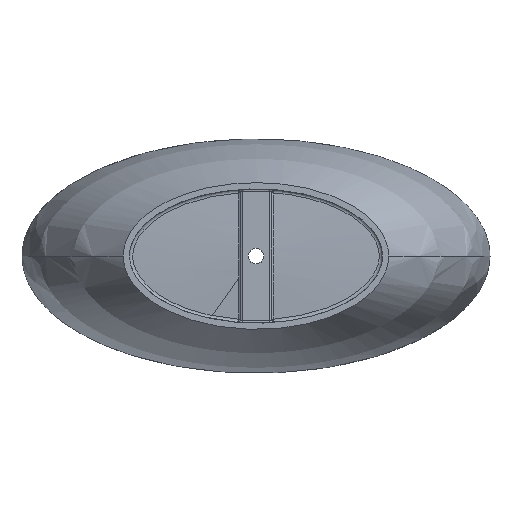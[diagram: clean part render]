
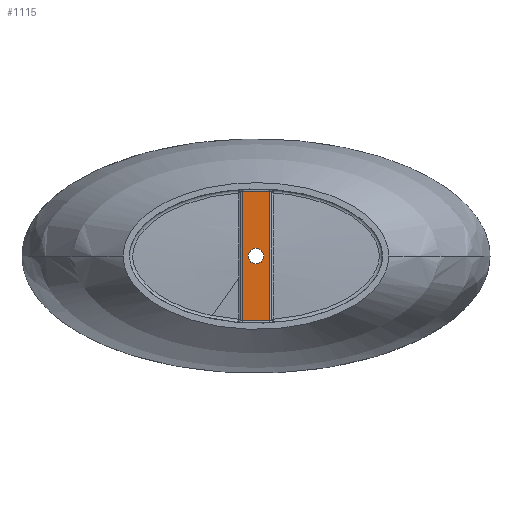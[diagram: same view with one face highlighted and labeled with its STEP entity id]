
A CAD part, front view. The second image highlights one B-rep face of the part: STEP entity #1115.
In plain terms, the highlighted planar face has unit normal (0, -1, 0).
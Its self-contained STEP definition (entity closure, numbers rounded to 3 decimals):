
#45 = EDGE_LOOP ( 'NONE', ( #12748, #12823 ) ) ;
#386 = CARTESIAN_POINT ( 'NONE',  ( 14.681, -481., 209. ) ) ;
#412 = VERTEX_POINT ( 'NONE', #11304 ) ;
#602 = EDGE_CURVE ( 'NONE', #10668, #8830, #10983, .T. ) ;
#1115 = ADVANCED_FACE ( 'NONE', ( #5053, #2295 ), #6865, .T. ) ;
#1319 = CARTESIAN_POINT ( 'NONE',  ( -29.348, -481., -208.567 ) ) ;
#1630 = CARTESIAN_POINT ( 'NONE',  ( 0., -481., 25. ) ) ;
#1760 = CARTESIAN_POINT ( 'NONE',  ( 29.348, -481., 208.567 ) ) ;
#1799 = DIRECTION ( 'NONE',  ( 0., 0., 1. ) ) ;
#1806 = VECTOR ( 'NONE', #6854, 1000. ) ;
#2295 = FACE_OUTER_BOUND ( 'NONE', #13058, .T. ) ;
#2696 = CARTESIAN_POINT ( 'NONE',  ( -44., -481., -207.693 ) ) ;
#2732 = DIRECTION ( 'NONE',  ( 0., 0., -1. ) ) ;
#2992 = VERTEX_POINT ( 'NONE', #6836 ) ;
#3127 = CARTESIAN_POINT ( 'NONE',  ( 44., -481., 207.693 ) ) ;
#3164 = DIRECTION ( 'NONE',  ( 0., 1., 0. ) ) ;
#3866 = DIRECTION ( 'NONE',  ( 0., 0., -1. ) ) ;
#4096 = DIRECTION ( 'NONE',  ( 0., -1., 0. ) ) ;
#4366 = AXIS2_PLACEMENT_3D ( 'NONE', #5464, #4096, #2732 ) ;
#4405 = EDGE_CURVE ( 'NONE', #8830, #8835, #9618, .T. ) ;
#4535 = CARTESIAN_POINT ( 'NONE',  ( 0., -481., 0. ) ) ;
#5053 = FACE_BOUND ( 'NONE', #45, .T. ) ;
#5065 = EDGE_CURVE ( 'NONE', #412, #6391, #8113, .T. ) ;
#5185 = EDGE_CURVE ( 'NONE', #2992, #10668, #6626, .T. ) ;
#5237 = CARTESIAN_POINT ( 'NONE',  ( -44., -481., -207.311 ) ) ;
#5464 = CARTESIAN_POINT ( 'NONE',  ( -50., -481., -246.782 ) ) ;
#5502 = CARTESIAN_POINT ( 'NONE',  ( -44., -481., -207.693 ) ) ;
#6148 = ORIENTED_EDGE ( 'NONE', *, *, #4405, .T. ) ;
#6391 = VERTEX_POINT ( 'NONE', #1630 ) ;
#6626 = LINE ( 'NONE', #5237, #7716 ) ;
#6661 = AXIS2_PLACEMENT_3D ( 'NONE', #12469, #11106, #9717 ) ;
#6836 = CARTESIAN_POINT ( 'NONE',  ( -44., -481., 207.693 ) ) ;
#6854 = DIRECTION ( 'NONE',  ( 0., 0., 1. ) ) ;
#6865 = PLANE ( 'NONE',  #4366 ) ;
#7716 = VECTOR ( 'NONE', #3866, 1000. ) ;
#8113 = CIRCLE ( 'NONE', #6661, 25. ) ;
#8233 = ORIENTED_EDGE ( 'NONE', *, *, #602, .T. ) ;
#8236 = CARTESIAN_POINT ( 'NONE',  ( 44., -481., 207.311 ) ) ;
#8830 = VERTEX_POINT ( 'NONE', #12134 ) ;
#8835 = VERTEX_POINT ( 'NONE', #10758 ) ;
#9270 = CARTESIAN_POINT ( 'NONE',  ( 44., -481., -207.693 ) ) ;
#9334 = AXIS2_PLACEMENT_3D ( 'NONE', #4535, #3164, #1799 ) ;
#9533 = CIRCLE ( 'NONE', #9334, 25. ) ;
#9618 = LINE ( 'NONE', #8236, #1806 ) ;
#9709 = CARTESIAN_POINT ( 'NONE',  ( -44., -481., 207.693 ) ) ;
#9717 = DIRECTION ( 'NONE',  ( 0., 0., 1. ) ) ;
#10651 = CARTESIAN_POINT ( 'NONE',  ( 29.348, -481., -208.566 ) ) ;
#10668 = VERTEX_POINT ( 'NONE', #5502 ) ;
#10758 = CARTESIAN_POINT ( 'NONE',  ( 44., -481., 207.693 ) ) ;
#10983 = B_SPLINE_CURVE_WITH_KNOTS ( 'NONE', 3,
 ( #2696, #1319, #13390, #12026, #10651, #9270 ),
 .UNSPECIFIED., .F., .F.,
 ( 4, 2, 4 ),
 ( 0.006, 0.05, 0.094 ),
 .UNSPECIFIED. ) ;
#11099 = CARTESIAN_POINT ( 'NONE',  ( -29.348, -481., 208.566 ) ) ;
#11106 = DIRECTION ( 'NONE',  ( 0., 1., 0. ) ) ;
#11304 = CARTESIAN_POINT ( 'NONE',  ( 0., -481., -25. ) ) ;
#11325 = ORIENTED_EDGE ( 'NONE', *, *, #12587, .T. ) ;
#12026 = CARTESIAN_POINT ( 'NONE',  ( 14.681, -481., -209. ) ) ;
#12131 = ORIENTED_EDGE ( 'NONE', *, *, #5185, .T. ) ;
#12134 = CARTESIAN_POINT ( 'NONE',  ( 44., -481., -207.693 ) ) ;
#12462 = CARTESIAN_POINT ( 'NONE',  ( -14.681, -481., 209. ) ) ;
#12469 = CARTESIAN_POINT ( 'NONE',  ( 0., -481., 0. ) ) ;
#12587 = EDGE_CURVE ( 'NONE', #8835, #2992, #13076, .T. ) ;
#12748 = ORIENTED_EDGE ( 'NONE', *, *, #12832, .T. ) ;
#12823 = ORIENTED_EDGE ( 'NONE', *, *, #5065, .T. ) ;
#12832 = EDGE_CURVE ( 'NONE', #6391, #412, #9533, .T. ) ;
#13058 = EDGE_LOOP ( 'NONE', ( #11325, #12131, #8233, #6148 ) ) ;
#13076 = B_SPLINE_CURVE_WITH_KNOTS ( 'NONE', 3,
 ( #3127, #1760, #386, #12462, #11099, #9709 ),
 .UNSPECIFIED., .F., .F.,
 ( 4, 2, 4 ),
 ( 0.006, 0.05, 0.094 ),
 .UNSPECIFIED. ) ;
#13390 = CARTESIAN_POINT ( 'NONE',  ( -14.681, -481., -209. ) ) ;
